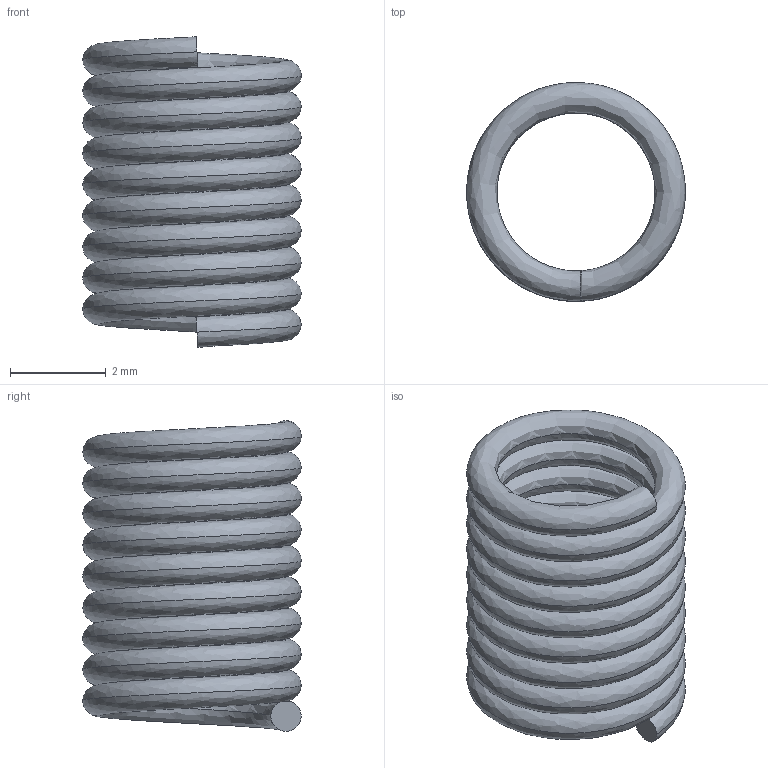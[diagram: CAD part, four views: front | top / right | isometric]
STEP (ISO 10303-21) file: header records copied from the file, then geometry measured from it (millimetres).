
FILE_DESCRIPTION(/* description */ ('VariCAD 2010-3.03 AP-214'),/* implementation_level */ '2;1');
FILE_NAME(/* name */ '0353-83-04',/* time_stamp */ '2011-01-17T18:22:43-07:00',/* author */ (''),/* organization */ (''),/* preprocessor_version */ 'ST-DEVELOPER v12',/* originating_system */ 'VariCAD 2010-3.03; kernel version (20100102)',/* authorisation */ '');
FILE_SCHEMA (('AUTOMOTIVE_DESIGN'));
Length unit declared in the file: millimetre
Products named in the file (1): Part
Bounding box: 4.58 x 4.58 x 6.5 mm (x, y, z)
Volume: 35.3 mm3; surface area: 223.2 mm2
Topology: 1 solids, 1 shells, 4 faces, 6 edges, 4 vertices
Faces by surface type: plane 2, bspline 2
Entity records: 4520 total; most frequent: CARTESIAN_POINT 4425, DIRECTION 16, ORIENTED_EDGE 12, AXIS2_PLACEMENT_3D 8, EDGE_CURVE 6, ADVANCED_FACE 4, FACE_OUTER_BOUND 4, EDGE_LOOP 4
